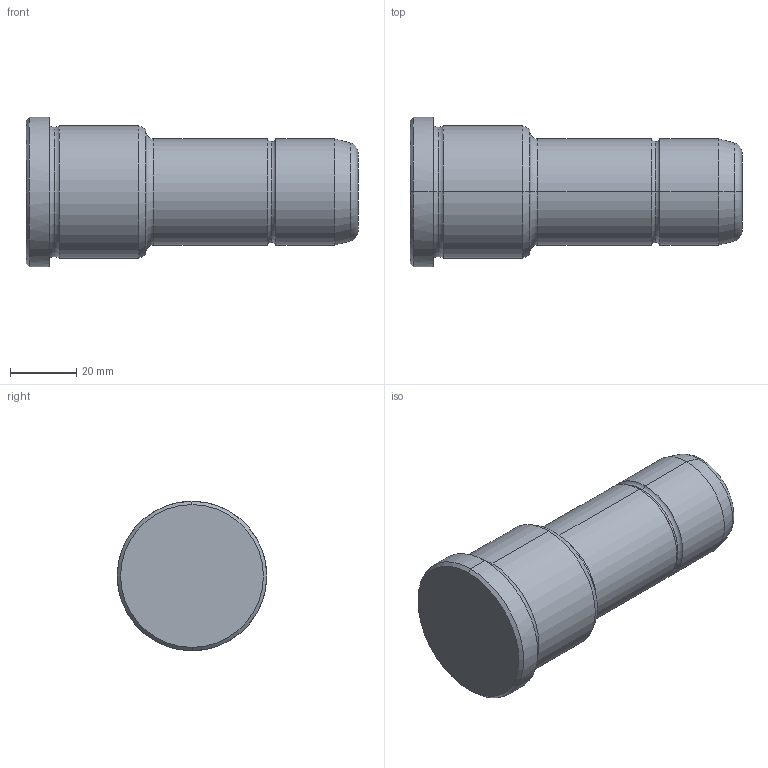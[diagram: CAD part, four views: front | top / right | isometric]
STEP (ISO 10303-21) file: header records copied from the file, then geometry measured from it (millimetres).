
FILE_DESCRIPTION(('CATIA V5 STEP Exchange'),'2;1');
FILE_NAME('C:\Users\Utente\Desktop\IO LAVORO\3D X SITO CF\X SITO\PLASTICA\351\351-32X36X100.stp','2021-09-07T13:35:44+00:00',('none'),('none'),'CATIA Version 5 Release 20 GA (IN-10)','CATIA V5 STEP AP203','none');
FILE_SCHEMA(('CONFIG_CONTROL_DESIGN'));
Length unit declared in the file: millimetre
Products named in the file (1): 351-32X36X100
Bounding box: 100 x 45 x 45 mm (x, y, z)
Volume: 97984 mm3; surface area: 13765.5 mm2
Topology: 1 solids, 1 shells, 30 faces, 86 edges, 60 vertices
Faces by surface type: torus 12, cylinder 8, cone 6, plane 4
Entity records: 1112 total; most frequent: CARTESIAN_POINT 289, ORIENTED_EDGE 172, DIRECTION 138, AXIS2_PLACEMENT_3D 95, EDGE_CURVE 86, CIRCLE 64, VERTEX_POINT 60, EDGE_LOOP 32
